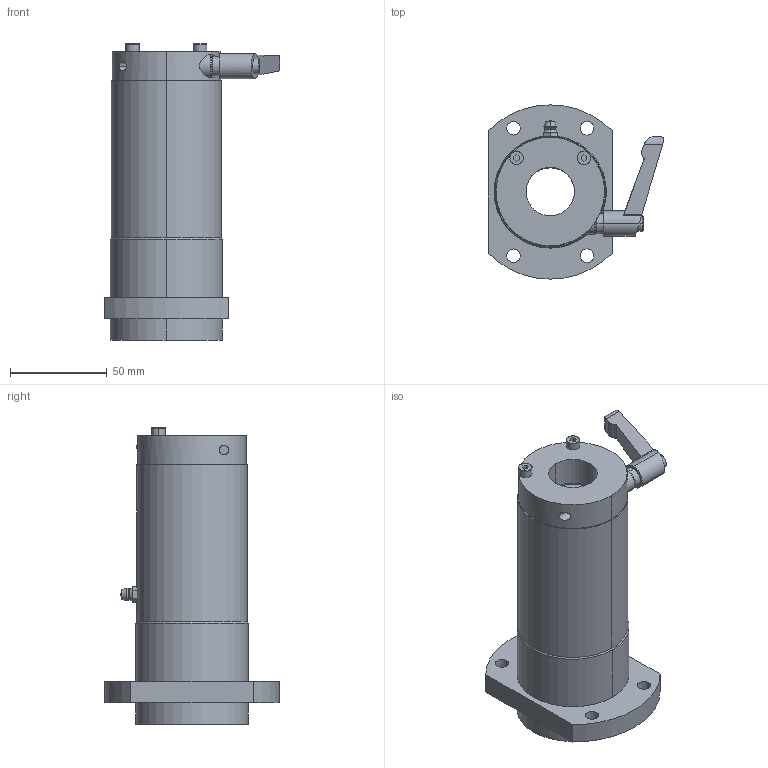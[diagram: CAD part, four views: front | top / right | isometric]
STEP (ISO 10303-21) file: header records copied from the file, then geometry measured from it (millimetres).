
FILE_DESCRIPTION (( 'STEP AP214' ), '1' );
FILE_NAME ('LFWB25-C.STEP', '2023-06-27T02:29:21', ( '' ), ( '' ), 'SwSTEP 2.0', 'SolidWorks 2019', '' );
FILE_SCHEMA (( 'AUTOMOTIVE_DESIGN' ));
Length unit declared in the file: millimetre
Products named in the file (3): LFWB25; “ÁSCK2515CO-S4.5; LFWB25-C
Assembly tree (2 placements, depth 2):
  LFWB25-C
    LFWB25
    “ÁSCK2515CO-S4.5
Bounding box: 90.6 x 90 x 153 mm (x, y, z)
Volume: 336022.1 mm3; surface area: 66029.3 mm2
Topology: 3 solids, 9 shells, 236 faces, 594 edges, 370 vertices
Faces by surface type: cylinder 85, plane 70, bspline 47, cone 22, torus 8, sphere 4
Entity records: 10637 total; most frequent: CARTESIAN_POINT 2306, DIRECTION 1230, ORIENTED_EDGE 1172, EDGE_CURVE 586, AXIS2_PLACEMENT_3D 516, VERTEX_POINT 366, CIRCLE 322, EDGE_LOOP 282
